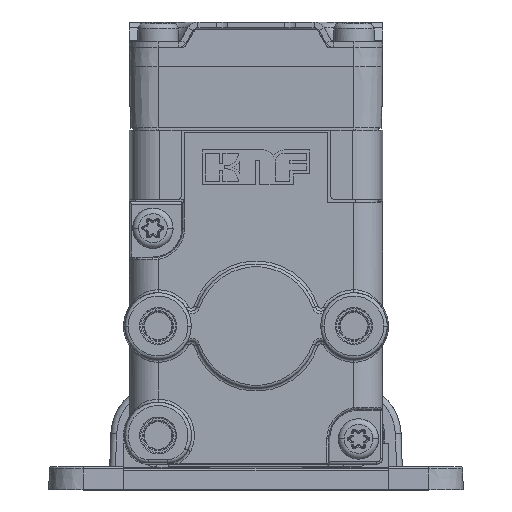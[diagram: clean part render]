
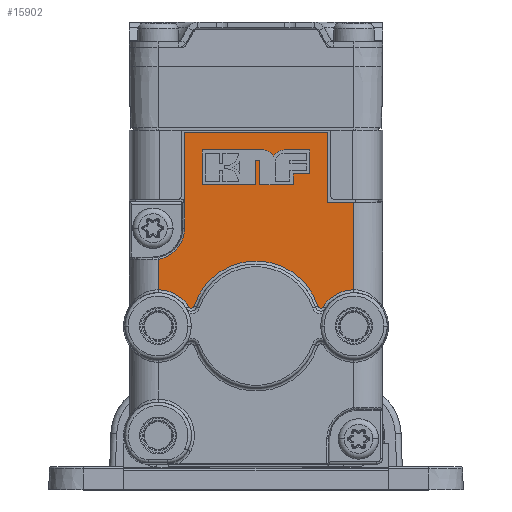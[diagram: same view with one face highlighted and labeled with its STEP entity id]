
A CAD part, top view. The second image highlights one B-rep face of the part: STEP entity #15902.
In plain terms, the highlighted planar face has unit normal (0, 0, 1).
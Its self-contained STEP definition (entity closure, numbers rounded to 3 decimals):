
#1958=CARTESIAN_POINT('',(8.491,10.706,11.));
#2556=DIRECTION('',(0.,-1.,0.));
#2557=VECTOR('',#2556,2.206);
#2558=CARTESIAN_POINT('',(-6.206,10.706,11.));
#2559=LINE('',#2558,#2557);
#2564=CARTESIAN_POINT('',(8.5,0.,11.));
#2565=DIRECTION('',(0.,0.,1.));
#2566=DIRECTION('',(-0.003,1.,0.));
#2567=AXIS2_PLACEMENT_3D('',#2564,#2565,#2566);
#2569=CARTESIAN_POINT('',(5.618,1.803,11.));
#2570=DIRECTION('',(0.,0.,-1.));
#2571=DIRECTION('',(0.848,-0.53,0.));
#2572=AXIS2_PLACEMENT_3D('',#2569,#2570,#2571);
#2574=CARTESIAN_POINT('',(0.,0.,11.));
#2575=DIRECTION('',(0.,0.,1.));
#2576=DIRECTION('',(0.952,0.306,0.));
#2577=AXIS2_PLACEMENT_3D('',#2574,#2575,#2576);
#2579=CARTESIAN_POINT('',(-5.618,1.803,11.));
#2580=DIRECTION('',(0.,0.,-1.));
#2581=DIRECTION('',(0.952,-0.306,0.));
#2582=AXIS2_PLACEMENT_3D('',#2579,#2580,#2581);
#2584=CARTESIAN_POINT('',(-8.5,0.,11.));
#2585=DIRECTION('',(0.,0.,1.));
#2586=DIRECTION('',(0.848,0.53,0.));
#2587=AXIS2_PLACEMENT_3D('',#2584,#2585,#2586);
#2589=CARTESIAN_POINT('',(-8.95,8.5,11.));
#2590=DIRECTION('',(0.,0.,1.));
#2591=DIRECTION('',(0.167,-0.986,0.));
#2592=AXIS2_PLACEMENT_3D('',#2589,#2590,#2591);
#2594=DIRECTION('',(0.,1.,0.));
#2595=VECTOR('',#2594,6.094);
#2596=CARTESIAN_POINT('',(-6.206,10.706,11.));
#2597=LINE('',#2596,#2595);
#2598=DIRECTION('',(1.,0.,0.));
#2599=VECTOR('',#2598,12.411);
#2600=CARTESIAN_POINT('',(-6.206,16.8,11.));
#2601=LINE('',#2600,#2599);
#2602=DIRECTION('',(0.,-1.,0.));
#2603=VECTOR('',#2602,6.094);
#2604=CARTESIAN_POINT('',(6.206,16.8,11.));
#2605=LINE('',#2604,#2603);
#2606=DIRECTION('',(1.,0.,0.));
#2607=VECTOR('',#2606,2.286);
#2608=CARTESIAN_POINT('',(6.206,10.706,11.));
#2609=LINE('',#2608,#2607);
#2610=CARTESIAN_POINT('',(2.445,14.218,11.));
#2611=DIRECTION('',(0.,0.,1.));
#2612=DIRECTION('',(0.,1.,0.));
#2613=AXIS2_PLACEMENT_3D('',#2610,#2611,#2612);
#2615=CARTESIAN_POINT('',(0.649,14.364,11.));
#2616=DIRECTION('',(0.,0.,1.));
#2617=DIRECTION('',(0.919,0.395,0.));
#2618=AXIS2_PLACEMENT_3D('',#2615,#2616,#2617);
#2669=DIRECTION('',(0.,1.,0.));
#2670=VECTOR('',#2669,7.559);
#2671=CARTESIAN_POINT('',(8.491,3.147,11.));
#2672=LINE('',#2671,#2670);
#4215=DIRECTION('',(0.,-1.,0.));
#4216=VECTOR('',#4215,2.647);
#4217=CARTESIAN_POINT('',(-8.491,5.794,11.));
#4218=LINE('',#4217,#4216);
#6360=DIRECTION('',(0.,1.,0.));
#6361=VECTOR('',#6360,3.026);
#6362=CARTESIAN_POINT('',(-4.658,12.266,11.));
#6363=LINE('',#6362,#6361);
#6368=DIRECTION('',(1.,0.,0.));
#6369=VECTOR('',#6368,5.306);
#6370=CARTESIAN_POINT('',(-4.658,15.292,11.));
#6371=LINE('',#6370,#6369);
#6384=DIRECTION('',(1.,0.,0.));
#6385=VECTOR('',#6384,2.213);
#6386=CARTESIAN_POINT('',(2.445,15.292,11.));
#6387=LINE('',#6386,#6385);
#6392=DIRECTION('',(0.,-1.,0.));
#6393=VECTOR('',#6392,2.077);
#6394=CARTESIAN_POINT('',(4.658,15.292,11.));
#6395=LINE('',#6394,#6393);
#6400=DIRECTION('',(-1.,0.,0.));
#6401=VECTOR('',#6400,1.415);
#6402=CARTESIAN_POINT('',(4.658,13.215,11.));
#6403=LINE('',#6402,#6401);
#6408=DIRECTION('',(0.,-1.,0.));
#6409=VECTOR('',#6408,0.949);
#6410=CARTESIAN_POINT('',(3.243,13.215,11.));
#6411=LINE('',#6410,#6409);
#6416=DIRECTION('',(-1.,0.,0.));
#6417=VECTOR('',#6416,2.908);
#6418=CARTESIAN_POINT('',(3.243,12.266,11.));
#6419=LINE('',#6418,#6417);
#6424=DIRECTION('',(0.,1.,0.));
#6425=VECTOR('',#6424,2.097);
#6426=CARTESIAN_POINT('',(0.335,12.266,11.));
#6427=LINE('',#6426,#6425);
#6432=DIRECTION('',(-1.,0.,0.));
#6433=VECTOR('',#6432,0.373);
#6434=CARTESIAN_POINT('',(0.335,14.363,11.));
#6435=LINE('',#6434,#6433);
#6440=DIRECTION('',(0.,-1.,0.));
#6441=VECTOR('',#6440,2.097);
#6442=CARTESIAN_POINT('',(-0.039,14.363,11.));
#6443=LINE('',#6442,#6441);
#6448=DIRECTION('',(-1.,0.,0.));
#6449=VECTOR('',#6448,4.619);
#6450=CARTESIAN_POINT('',(-0.039,12.266,11.));
#6451=LINE('',#6450,#6449);
#10405=VERTEX_POINT('',#1958);
#10406=CARTESIAN_POINT('',(6.206,10.706,11.));
#10407=VERTEX_POINT('',#10406);
#10542=CARTESIAN_POINT('',(6.206,16.8,11.));
#10543=VERTEX_POINT('',#10542);
#10544=CARTESIAN_POINT('',(8.491,3.147,11.));
#10545=CARTESIAN_POINT('',(5.832,1.669,11.));
#10546=VERTEX_POINT('',#10544);
#10547=VERTEX_POINT('',#10545);
#10548=CARTESIAN_POINT('',(5.377,1.726,11.));
#10549=VERTEX_POINT('',#10548);
#10550=CARTESIAN_POINT('',(-5.377,1.726,11.));
#10551=VERTEX_POINT('',#10550);
#10552=CARTESIAN_POINT('',(-5.832,1.669,11.));
#10553=VERTEX_POINT('',#10552);
#10554=CARTESIAN_POINT('',(-8.491,3.147,11.));
#10555=VERTEX_POINT('',#10554);
#10556=CARTESIAN_POINT('',(-8.491,5.794,
11.));
#10557=VERTEX_POINT('',#10556);
#10558=CARTESIAN_POINT('',(-6.206,8.5,11.));
#10559=VERTEX_POINT('',#10558);
#10560=CARTESIAN_POINT('',(-6.206,10.706,
11.));
#10561=VERTEX_POINT('',#10560);
#10562=CARTESIAN_POINT('',(-6.206,16.8,11.));
#10563=VERTEX_POINT('',#10562);
#10564=CARTESIAN_POINT('',(-4.658,12.266,11.));
#10565=CARTESIAN_POINT('',(-4.658,15.292,11.));
#10566=VERTEX_POINT('',#10564);
#10567=VERTEX_POINT('',#10565);
#10568=CARTESIAN_POINT('',(-0.039,12.266,11.));
#10569=VERTEX_POINT('',#10568);
#10570=CARTESIAN_POINT('',(-0.039,14.363,11.));
#10571=VERTEX_POINT('',#10570);
#10572=CARTESIAN_POINT('',(0.335,14.363,11.));
#10573=VERTEX_POINT('',#10572);
#10574=CARTESIAN_POINT('',(0.335,12.266,11.));
#10575=VERTEX_POINT('',#10574);
#10576=CARTESIAN_POINT('',(3.243,12.266,11.));
#10577=VERTEX_POINT('',#10576);
#10578=CARTESIAN_POINT('',(3.243,13.215,11.));
#10579=VERTEX_POINT('',#10578);
#10580=CARTESIAN_POINT('',(4.658,13.215,11.));
#10581=VERTEX_POINT('',#10580);
#10582=CARTESIAN_POINT('',(4.658,15.292,11.));
#10583=VERTEX_POINT('',#10582);
#10584=CARTESIAN_POINT('',(2.445,15.292,11.));
#10585=VERTEX_POINT('',#10584);
#10586=CARTESIAN_POINT('',(1.501,14.731,11.));
#10587=VERTEX_POINT('',#10586);
#10588=CARTESIAN_POINT('',(0.649,15.292,11.));
#10589=VERTEX_POINT('',#10588);
#15846=CARTESIAN_POINT('',(0.,0.,11.));
#15847=DIRECTION('',(0.,0.,1.));
#15848=DIRECTION('',(1.,0.,0.));
#15849=AXIS2_PLACEMENT_3D('',#15846,#15847,#15848);
#15850=PLANE('',#15849);
#15852=ORIENTED_EDGE('',*,*,#15851,.T.);
#15854=ORIENTED_EDGE('',*,*,#15853,.T.);
#15856=ORIENTED_EDGE('',*,*,#15855,.T.);
#15858=ORIENTED_EDGE('',*,*,#15857,.T.);
#15860=ORIENTED_EDGE('',*,*,#15859,.T.);
#15862=ORIENTED_EDGE('',*,*,#15861,.F.);
#15864=ORIENTED_EDGE('',*,*,#15863,.T.);
#15865=ORIENTED_EDGE('',*,*,#15830,.F.);
#15866=ORIENTED_EDGE('',*,*,#14800,.T.);
#15867=ORIENTED_EDGE('',*,*,#14825,.T.);
#15868=ORIENTED_EDGE('',*,*,#14846,.T.);
#15869=ORIENTED_EDGE('',*,*,#14871,.T.);
#15871=ORIENTED_EDGE('',*,*,#15870,.F.);
#15872=EDGE_LOOP('',(#15852,#15854,#15856,#15858,#15860,#15862,#15864,#15865,
#15866,#15867,#15868,#15869,#15871));
#15873=FACE_OUTER_BOUND('',#15872,.F.);
#15875=ORIENTED_EDGE('',*,*,#15874,.F.);
#15877=ORIENTED_EDGE('',*,*,#15876,.F.);
#15879=ORIENTED_EDGE('',*,*,#15878,.F.);
#15881=ORIENTED_EDGE('',*,*,#15880,.F.);
#15883=ORIENTED_EDGE('',*,*,#15882,.F.);
#15885=ORIENTED_EDGE('',*,*,#15884,.F.);
#15887=ORIENTED_EDGE('',*,*,#15886,.F.);
#15889=ORIENTED_EDGE('',*,*,#15888,.F.);
#15891=ORIENTED_EDGE('',*,*,#15890,.F.);
#15893=ORIENTED_EDGE('',*,*,#15892,.F.);
#15895=ORIENTED_EDGE('',*,*,#15894,.T.);
#15897=ORIENTED_EDGE('',*,*,#15896,.T.);
#15899=ORIENTED_EDGE('',*,*,#15898,.F.);
#15900=EDGE_LOOP('',(#15875,#15877,#15879,#15881,#15883,#15885,#15887,#15889,
#15891,#15893,#15895,#15897,#15899));
#15901=FACE_BOUND('',#15900,.F.);
#2568=CIRCLE('',#2567,3.147);
#2573=CIRCLE('',#2572,0.253);
#2578=CIRCLE('',#2577,5.647);
#2583=CIRCLE('',#2582,0.253);
#2588=CIRCLE('',#2587,3.147);
#2593=CIRCLE('',#2592,2.744);
#2614=CIRCLE('',#2613,1.074);
#2619=CIRCLE('',#2618,0.928);
#14800=EDGE_CURVE('',#10561,#10563,#2597,.T.);
#14825=EDGE_CURVE('',#10563,#10543,#2601,.T.);
#14846=EDGE_CURVE('',#10543,#10407,#2605,.T.);
#14871=EDGE_CURVE('',#10407,#10405,#2609,.T.);
#15830=EDGE_CURVE('',#10561,#10559,#2559,.T.);
#15851=EDGE_CURVE('',#10546,#10547,#2568,.T.);
#15853=EDGE_CURVE('',#10547,#10549,#2573,.T.);
#15855=EDGE_CURVE('',#10549,#10551,#2578,.T.);
#15857=EDGE_CURVE('',#10551,#10553,#2583,.T.);
#15859=EDGE_CURVE('',#10553,#10555,#2588,.T.);
#15861=EDGE_CURVE('',#10557,#10555,#4218,.T.);
#15863=EDGE_CURVE('',#10557,#10559,#2593,.T.);
#15870=EDGE_CURVE('',#10546,#10405,#2672,.T.);
#15874=EDGE_CURVE('',#10566,#10567,#6363,.T.);
#15876=EDGE_CURVE('',#10569,#10566,#6451,.T.);
#15878=EDGE_CURVE('',#10571,#10569,#6443,.T.);
#15880=EDGE_CURVE('',#10573,#10571,#6435,.T.);
#15882=EDGE_CURVE('',#10575,#10573,#6427,.T.);
#15884=EDGE_CURVE('',#10577,#10575,#6419,.T.);
#15886=EDGE_CURVE('',#10579,#10577,#6411,.T.);
#15888=EDGE_CURVE('',#10581,#10579,#6403,.T.);
#15890=EDGE_CURVE('',#10583,#10581,#6395,.T.);
#15892=EDGE_CURVE('',#10585,#10583,#6387,.T.);
#15894=EDGE_CURVE('',#10585,#10587,#2614,.T.);
#15896=EDGE_CURVE('',#10587,#10589,#2619,.T.);
#15898=EDGE_CURVE('',#10567,#10589,#6371,.T.);
#15902=ADVANCED_FACE('',(#15873,#15901),#15850,.T.);
